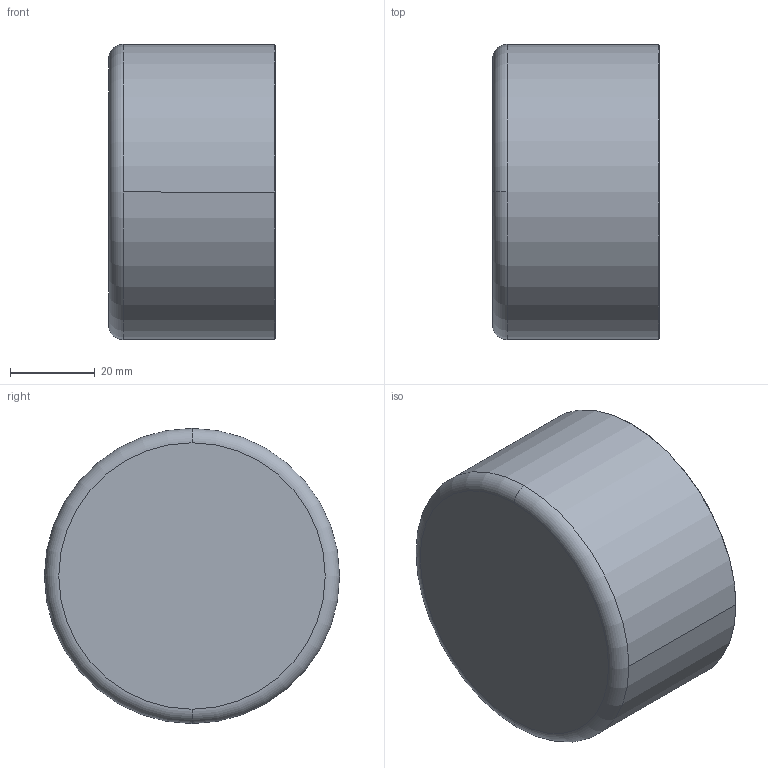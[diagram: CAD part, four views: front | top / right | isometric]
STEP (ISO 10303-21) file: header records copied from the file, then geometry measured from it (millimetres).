
FILE_DESCRIPTION((''),'2;1');
FILE_NAME('C:\sanha_work\5130\f\530167.stp','2005-10-21T18:20:05',('Kris'),(''),'Autodesk Inventor 8','Autodesk Inventor 8','');
FILE_SCHEMA(('AUTOMOTIVE_DESIGN { 1 0 10303 214 1 1 1 1 }'));
Length unit declared in the file: millimetre
Products named in the file (1): 530167
Bounding box: 39.4 x 69.8 x 69.8 mm (x, y, z)
Volume: 16426.5 mm3; surface area: 23733.3 mm2
Topology: 1 solids, 1 shells, 15 faces, 34 edges, 22 vertices
Faces by surface type: torus 4, cylinder 4, cone 4, plane 3
Entity records: 461 total; most frequent: DIRECTION 92, CARTESIAN_POINT 72, ORIENTED_EDGE 68, AXIS2_PLACEMENT_3D 42, EDGE_CURVE 34, CIRCLE 26, VERTEX_POINT 22, EDGE_LOOP 16
